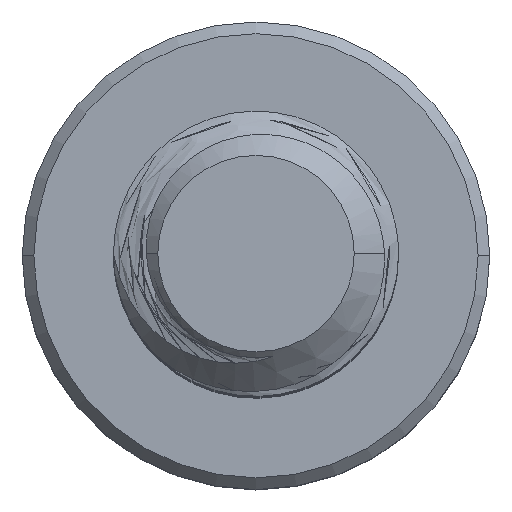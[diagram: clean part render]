
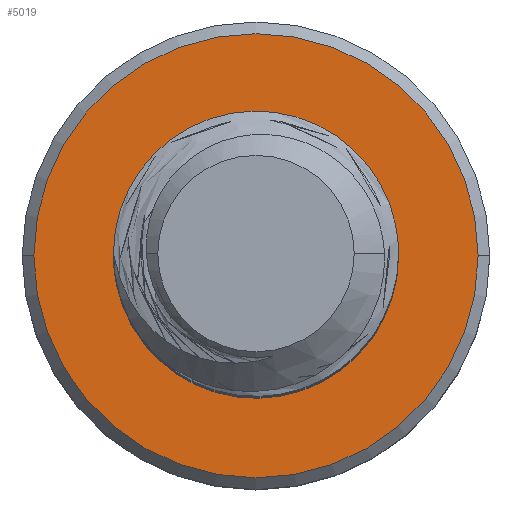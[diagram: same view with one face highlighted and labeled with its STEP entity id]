
A CAD part, top view. The second image highlights one B-rep face of the part: STEP entity #5019.
In plain terms, the highlighted planar face has unit normal (0, 0, 1).
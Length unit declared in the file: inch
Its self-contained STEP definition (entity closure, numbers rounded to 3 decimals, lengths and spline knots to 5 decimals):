
#106 = DIRECTION ( 'NONE',  ( 0., 0., 1. ) ) ;
#170 = CIRCLE ( 'NONE', #4500, 0.043 ) ;
#176 = VERTEX_POINT ( 'NONE', #2816 ) ;
#287 = AXIS2_PLACEMENT_3D ( 'NONE', #4351, #3084, #376 ) ;
#324 = CARTESIAN_POINT ( 'NONE',  ( -0.01493, -0.03101, -0.375 ) ) ;
#376 = DIRECTION ( 'NONE',  ( -1., 0., 0. ) ) ;
#405 = CARTESIAN_POINT ( 'NONE',  ( -0.03013, 0.03068, -0.375 ) ) ;
#493 = CARTESIAN_POINT ( 'NONE',  ( 0.03599, 0.01043, -0.375 ) ) ;
#540 = AXIS2_PLACEMENT_3D ( 'NONE', #1000, #106, #2758 ) ;
#569 = VERTEX_POINT ( 'NONE', #2346 ) ;
#573 = CARTESIAN_POINT ( 'NONE',  ( 0., -0.0314, -0.375 ) ) ;
#709 = FACE_BOUND ( 'NONE', #1048, .T. ) ;
#717 = CIRCLE ( 'NONE', #540, 0.06697 ) ;
#986 = ORIENTED_EDGE ( 'NONE', *, *, #5510, .T. ) ;
#1000 = CARTESIAN_POINT ( 'NONE',  ( 0., 0., -0.375 ) ) ;
#1048 = EDGE_LOOP ( 'NONE', ( #2173, #5258, #5127, #986 ) ) ;
#1065 = DIRECTION ( 'NONE',  ( 0., 0., -1. ) ) ;
#1152 = PLANE ( 'NONE',  #2011 ) ;
#1184 = CARTESIAN_POINT ( 'NONE',  ( 0.022, -0.02241, -0.375 ) ) ;
#1292 = DIRECTION ( 'NONE',  ( 0., 0., -1. ) ) ;
#1352 = CARTESIAN_POINT ( 'NONE',  ( 0.01416, 0.039, -0.375 ) ) ;
#1538 = CARTESIAN_POINT ( 'NONE',  ( 0.06697, 0., -0.375 ) ) ;
#1636 = CIRCLE ( 'NONE', #2186, 0.0314 ) ;
#1695 = CARTESIAN_POINT ( 'NONE',  ( 0.00371, 0.04261, -0.375 ) ) ;
#1813 = CARTESIAN_POINT ( 'NONE',  ( 0.03635, 0.00276, -0.375 ) ) ;
#1829 = DIRECTION ( 'NONE',  ( 1., 0., 0. ) ) ;
#2011 = AXIS2_PLACEMENT_3D ( 'NONE', #3366, #1065, #2036 ) ;
#2036 = DIRECTION ( 'NONE',  ( -1., 0., 0. ) ) ;
#2071 = EDGE_CURVE ( 'NONE', #2973, #176, #2768, .T. ) ;
#2077 = CARTESIAN_POINT ( 'NONE',  ( -0.03854, 0.01427, -0.375 ) ) ;
#2132 = CARTESIAN_POINT ( 'NONE',  ( 0.02759, -0.01755, -0.375 ) ) ;
#2159 = EDGE_CURVE ( 'NONE', #3582, #4616, #4150, .T. ) ;
#2173 = ORIENTED_EDGE ( 'NONE', *, *, #4142, .F. ) ;
#2186 = AXIS2_PLACEMENT_3D ( 'NONE', #5212, #1292, #3053 ) ;
#2346 = CARTESIAN_POINT ( 'NONE',  ( -0.03013, 0.03068, -0.375 ) ) ;
#2490 = CARTESIAN_POINT ( 'NONE',  ( -0.04012, 0.00334, -0.375 ) ) ;
#2529 = EDGE_CURVE ( 'NONE', #176, #2973, #717, .T. ) ;
#2558 = CARTESIAN_POINT ( 'NONE',  ( 0.03331, -0.00803, -0.375 ) ) ;
#2562 = CARTESIAN_POINT ( 'NONE',  ( -0.03443, 0.02459, -0.375 ) ) ;
#2591 = CARTESIAN_POINT ( 'NONE',  ( -0.03288, -0.0178, -0.375 ) ) ;
#2626 = DIRECTION ( 'NONE',  ( 0., 0., 1. ) ) ;
#2678 = CARTESIAN_POINT ( 'NONE',  ( 0.03084, 0.02423, -0.375 ) ) ;
#2758 = DIRECTION ( 'NONE',  ( -1., 0., 0. ) ) ;
#2768 = CIRCLE ( 'NONE', #287, 0.06697 ) ;
#2816 = CARTESIAN_POINT ( 'NONE',  ( -0.06697, 0., -0.375 ) ) ;
#2872 = ORIENTED_EDGE ( 'NONE', *, *, #2529, .T. ) ;
#2878 = FACE_OUTER_BOUND ( 'NONE', #3519, .T. ) ;
#2922 = CARTESIAN_POINT ( 'NONE',  ( 0., -0.0314, -0.375 ) ) ;
#2973 = VERTEX_POINT ( 'NONE', #1538 ) ;
#3002 = CARTESIAN_POINT ( 'NONE',  ( -0.0074, -0.03245, -0.375 ) ) ;
#3053 = DIRECTION ( 'NONE',  ( 1., 0., 0. ) ) ;
#3084 = DIRECTION ( 'NONE',  ( 0., 0., 1. ) ) ;
#3114 = CARTESIAN_POINT ( 'NONE',  ( 0.01742, 0.03715, -0.375 ) ) ;
#3366 = CARTESIAN_POINT ( 'NONE',  ( 0., 0., -0.375 ) ) ;
#3412 = CARTESIAN_POINT ( 'NONE',  ( -0.03747, 0.01789, -0.375 ) ) ;
#3459 = CARTESIAN_POINT ( 'NONE',  ( 0.022, -0.02241, -0.375 ) ) ;
#3519 = EDGE_LOOP ( 'NONE', ( #2872, #3547 ) ) ;
#3531 = CARTESIAN_POINT ( 'NONE',  ( 0., 0., -0.375 ) ) ;
#3547 = ORIENTED_EDGE ( 'NONE', *, *, #2071, .T. ) ;
#3582 = VERTEX_POINT ( 'NONE', #5497 ) ;
#3767 = B_SPLINE_CURVE_WITH_KNOTS ( 'NONE', 3,
 ( #2922, #3002, #324, #5217, #2591, #3869, #2490, #2077, #3412, #2562, #4357, #405 ),
 .UNSPECIFIED., .F., .F.,
 ( 4, 2, 2, 2, 2, 4 ),
 ( 0., 0.00056, 0.00112, 0.00168, 0.00196, 0.00224 ),
 .UNSPECIFIED. ) ;
#3869 = CARTESIAN_POINT ( 'NONE',  ( -0.03905, -0.00427, -0.375 ) ) ;
#3889 = CARTESIAN_POINT ( 'NONE',  ( 0.02505, -0.02024, -0.375 ) ) ;
#4142 = EDGE_CURVE ( 'NONE', #3582, #569, #170, .T. ) ;
#4150 = B_SPLINE_CURVE_WITH_KNOTS ( 'NONE', 3,
 ( #4907, #1695, #5299, #1352, #3114, #4876, #2678, #493, #1813, #2558, #4327, #2132, #3889, #3459 ),
 .UNSPECIFIED., .F., .F.,
 ( 4, 2, 2, 2, 2, 2, 4 ),
 ( 0., 0.00028, 0.00056, 0.00112, 0.00168, 0.00196, 0.00224 ),
 .UNSPECIFIED. ) ;
#4327 = CARTESIAN_POINT ( 'NONE',  ( 0.03176, -0.01137, -0.375 ) ) ;
#4351 = CARTESIAN_POINT ( 'NONE',  ( 0., 0., -0.375 ) ) ;
#4357 = CARTESIAN_POINT ( 'NONE',  ( -0.03247, 0.02778, -0.375 ) ) ;
#4381 = EDGE_CURVE ( 'NONE', #4616, #4848, #1636, .T. ) ;
#4500 = AXIS2_PLACEMENT_3D ( 'NONE', #3531, #2626, #1829 ) ;
#4616 = VERTEX_POINT ( 'NONE', #1184 ) ;
#4848 = VERTEX_POINT ( 'NONE', #573 ) ;
#4876 = CARTESIAN_POINT ( 'NONE',  ( 0.02618, 0.03043, -0.375 ) ) ;
#4907 = CARTESIAN_POINT ( 'NONE',  ( 0., 0.043, -0.375 ) ) ;
#5019 = ADVANCED_FACE ( 'NONE', ( #2878, #709 ), #1152, .F. ) ;
#5127 = ORIENTED_EDGE ( 'NONE', *, *, #4381, .T. ) ;
#5212 = CARTESIAN_POINT ( 'NONE',  ( 0., 0., -0.375 ) ) ;
#5217 = CARTESIAN_POINT ( 'NONE',  ( -0.02788, -0.02362, -0.375 ) ) ;
#5258 = ORIENTED_EDGE ( 'NONE', *, *, #2159, .T. ) ;
#5299 = CARTESIAN_POINT ( 'NONE',  ( 0.00728, 0.04173, -0.375 ) ) ;
#5497 = CARTESIAN_POINT ( 'NONE',  ( 0., 0.043, -0.375 ) ) ;
#5510 = EDGE_CURVE ( 'NONE', #4848, #569, #3767, .T. ) ;
